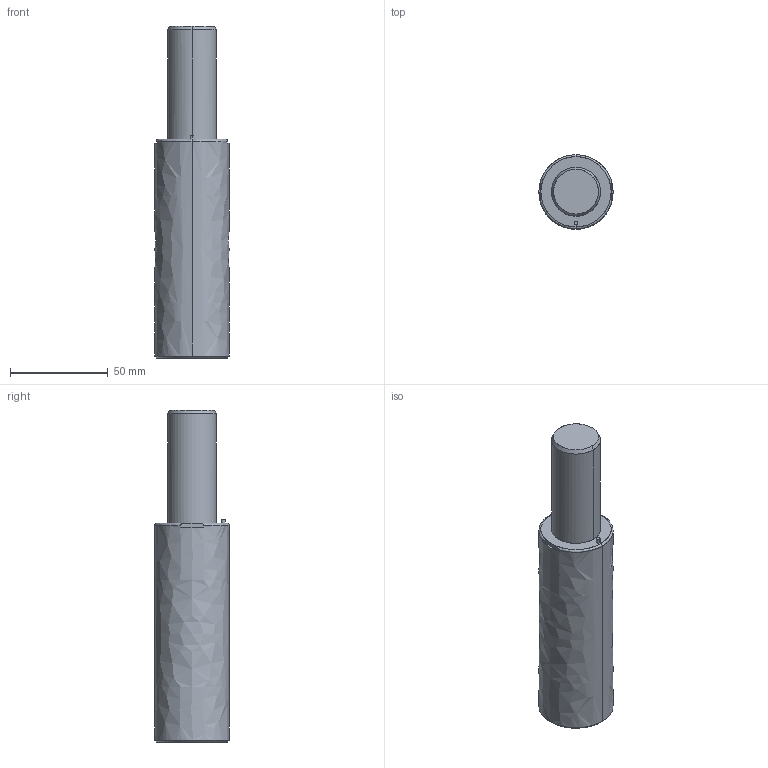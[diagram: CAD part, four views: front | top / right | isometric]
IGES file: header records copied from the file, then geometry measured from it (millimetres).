
Global section: file name: E:\UnigraphicsGraphicData\MISUMI_PRESS-PARTS\IGES\3d_gsx38-56_03985_r00.igs; native system: NX V5.0; preprocessor: UGS NX IGES V5.0; author: MISUMI; date: 20110105.160826; units: millimetre
Bounding box: 38 x 38 x 170 mm (x, y, z)
Surface area: 21315.2 mm2 (no closed solid volume)
Topology: 0 solids, 0 shells, 59 faces, 414 edges, 406 vertices
Faces by surface type: bspline 59
